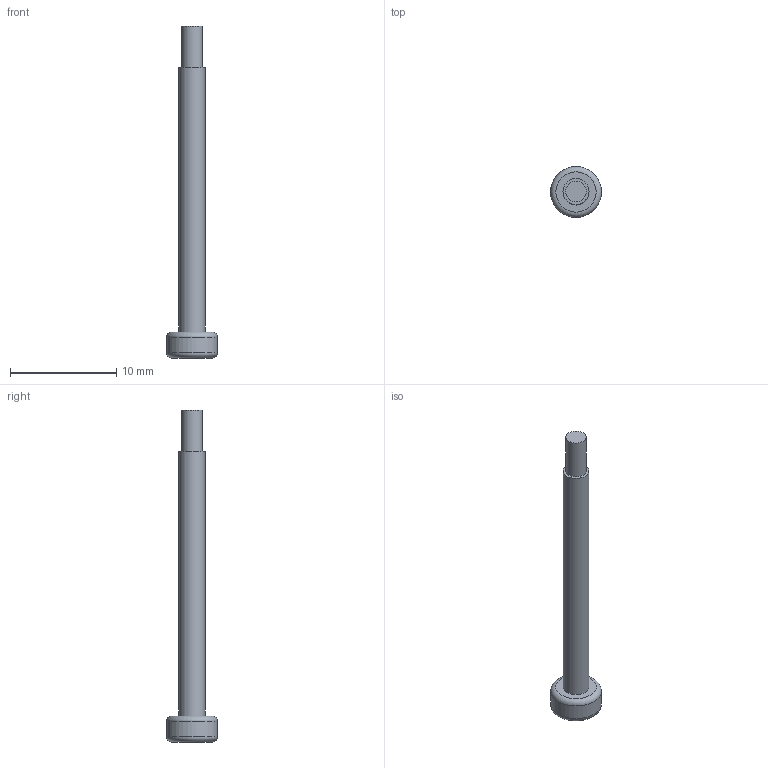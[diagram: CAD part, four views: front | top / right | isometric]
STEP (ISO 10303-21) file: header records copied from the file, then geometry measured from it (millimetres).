
FILE_DESCRIPTION(/* description */ (''),/* implementation_level */ '2;1');
FILE_NAME(/* name */ 'Y-JG-WJ-B00146-01.stp',/* time_stamp */ '2024-04-13T19:05:41+08:00',/* author */ (''),/* organization */ (''),/* preprocessor_version */ 'ST-DEVELOPER v16',/* originating_system */ 'SIEMENS PLM Software NX 10.0',/* authorisation */ '');
FILE_SCHEMA (('AUTOMOTIVE_DESIGN { 1 0 10303 214 3 1 1 1 }'));
Length unit declared in the file: millimetre
Products named in the file (1): _model3
Bounding box: 4.8 x 4.8 x 31.3 mm (x, y, z)
Volume: 168.9 mm3; surface area: 290.6 mm2
Topology: 1 solids, 1 shells, 16 faces, 31 edges, 20 vertices
Faces by surface type: plane 11, cylinder 3, torus 2
Full cylindrical faces by diameter (mm): 1.93 x1, 2.46 x1, 4.8 x1
Entity records: 406 total; most frequent: DIRECTION 68, CARTESIAN_POINT 63, ORIENTED_EDGE 52, EDGE_CURVE 26, AXIS2_PLACEMENT_3D 25, EDGE_LOOP 24, VERTEX_POINT 20, LINE 18
